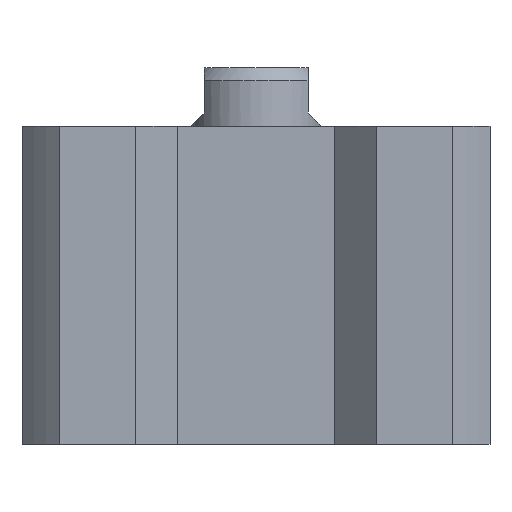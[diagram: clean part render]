
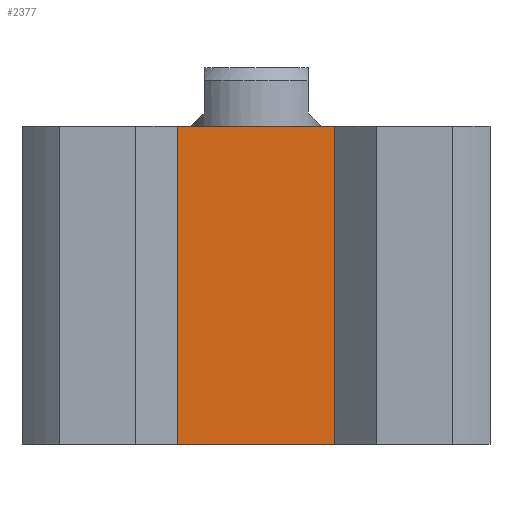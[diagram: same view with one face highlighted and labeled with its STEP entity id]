
A CAD part, front view. The second image highlights one B-rep face of the part: STEP entity #2377.
In plain terms, the highlighted planar face has unit normal (0, -1, 0).
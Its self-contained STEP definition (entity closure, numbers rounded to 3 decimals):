
#114 = CARTESIAN_POINT ( 'NONE',  ( 6.05, -14.8, -12.25 ) ) ;
#137 = VERTEX_POINT ( 'NONE', #2645 ) ;
#309 = VERTEX_POINT ( 'NONE', #4248 ) ;
#352 = VERTEX_POINT ( 'NONE', #751 ) ;
#416 = CARTESIAN_POINT ( 'NONE',  ( 6.05, -14.8, 12.25 ) ) ;
#425 = ORIENTED_EDGE ( 'NONE', *, *, #427, .F. ) ;
#427 = EDGE_CURVE ( 'NONE', #4061, #352, #3958, .T. ) ;
#456 = AXIS2_PLACEMENT_3D ( 'NONE', #691, #2192, #581 ) ;
#581 = DIRECTION ( 'NONE',  ( -1., 0., 0. ) ) ;
#690 = VECTOR ( 'NONE', #4596, 1000. ) ;
#691 = CARTESIAN_POINT ( 'NONE',  ( 6.05, -14.8, 12.25 ) ) ;
#751 = CARTESIAN_POINT ( 'NONE',  ( 6.05, -14.8, 12.25 ) ) ;
#972 = LINE ( 'NONE', #3775, #4667 ) ;
#1283 = EDGE_CURVE ( 'NONE', #352, #137, #3792, .T. ) ;
#1375 = ORIENTED_EDGE ( 'NONE', *, *, #2446, .T. ) ;
#1584 = LINE ( 'NONE', #114, #4384 ) ;
#1805 = FACE_OUTER_BOUND ( 'NONE', #4800, .T. ) ;
#1829 = DIRECTION ( 'NONE',  ( 0., 0., -1. ) ) ;
#1992 = DIRECTION ( 'NONE',  ( 1., 0., 0. ) ) ;
#2192 = DIRECTION ( 'NONE',  ( 0., 1., 0. ) ) ;
#2216 = PLANE ( 'NONE',  #456 ) ;
#2377 = ADVANCED_FACE ( 'NONE', ( #1805 ), #2216, .F. ) ;
#2446 = EDGE_CURVE ( 'NONE', #4061, #309, #972, .T. ) ;
#2645 = CARTESIAN_POINT ( 'NONE',  ( 6.05, -14.8, -12.25 ) ) ;
#2861 = DIRECTION ( 'NONE',  ( 1., 0., 0. ) ) ;
#3360 = CARTESIAN_POINT ( 'NONE',  ( -6.05, -14.8, 12.25 ) ) ;
#3775 = CARTESIAN_POINT ( 'NONE',  ( -6.05, -14.8, 12.25 ) ) ;
#3792 = LINE ( 'NONE', #3818, #690 ) ;
#3818 = CARTESIAN_POINT ( 'NONE',  ( 6.05, -14.8, 12.25 ) ) ;
#3958 = LINE ( 'NONE', #416, #4894 ) ;
#3999 = EDGE_CURVE ( 'NONE', #309, #137, #1584, .T. ) ;
#4061 = VERTEX_POINT ( 'NONE', #3360 ) ;
#4095 = ORIENTED_EDGE ( 'NONE', *, *, #1283, .F. ) ;
#4248 = CARTESIAN_POINT ( 'NONE',  ( -6.05, -14.8, -12.25 ) ) ;
#4384 = VECTOR ( 'NONE', #2861, 1000. ) ;
#4596 = DIRECTION ( 'NONE',  ( 0., 0., -1. ) ) ;
#4667 = VECTOR ( 'NONE', #1829, 1000. ) ;
#4800 = EDGE_LOOP ( 'NONE', ( #4095, #425, #1375, #5045 ) ) ;
#4894 = VECTOR ( 'NONE', #1992, 1000. ) ;
#5045 = ORIENTED_EDGE ( 'NONE', *, *, #3999, .T. ) ;
